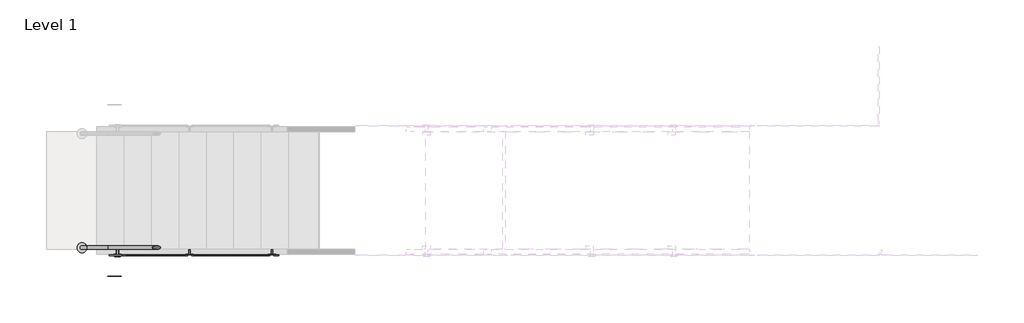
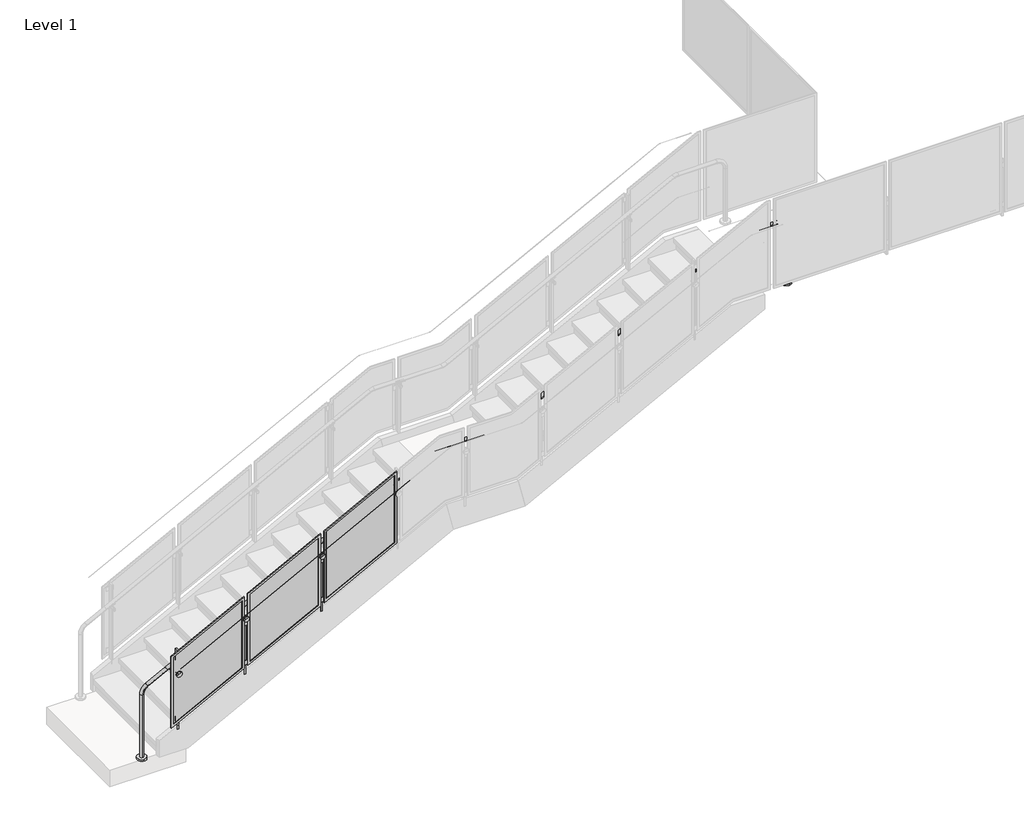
# One storey, part 4 of 28: 1 railing.
"""IFC4 building model written with IfcOpenShell, lengths in millimetres."""

from ifc_helpers import new_model, si_unit, point, frame, frame_2d, origin, place, context, project, spatial, polyline, circle_curve, ellipse_curve, trimmed, segment, composite_curve, outline, extrude, element, save
from ifc_brep_helpers import plane_surface, cylinder_surface, revolved_surface, advanced_brep

model = new_model("IFC4")

# Units and contexts
model_context = context("Model", 3, world=origin())
ifc_project = project(units=[si_unit("LENGTHUNIT", "METRE", prefix="MILLI")], contexts=[model_context])

# Site, building, storey
site = spatial("IfcSite", under=ifc_project)
building = spatial("IfcBuilding", under=site)
storey = spatial("IfcBuildingStorey", under=building, Name="Level 1", Elevation=0.0)

# Railing
placement = place(None, origin())
element("IfcRailing", 1, ObjectType="Metal-Panel-VIVA-STRUC-Slab-Top-Weld-Stairs-Lower", at=placement, inside=storey, context=model_context, shape_type="SolidModel", body=[
    extrude(outline(composite_curve([segment(trimmed(circle_curve(frame_2d((-12073.0515794, -31405.3881116)), 50.8), [point((-12073.0515794, -31456.1881116))], [point((-12073.0515794, -31354.5881116))], False, "CARTESIAN"), True, "CONTINUOUS"), segment(trimmed(circle_curve(frame_2d((-12073.0515794, -31405.3881116)), 50.8), [point((-12073.0515794, -31354.5881116))], [point((-12073.0515794, -31456.1881116))], False, "CARTESIAN"), True, "CONTINUOUS")], self_intersect=False)), frame((0.0, 0.0, 3047.9164465), z_axis=(0.0, 0.0, 1.0), x_axis=(1.0, 0.0, 0.0)), (0.0, 0.0, 1.0), 19.05),
    extrude(outline(composite_curve([segment(trimmed(circle_curve(frame_2d((-19157.6813244, -31405.3881116)), 50.8), [point((-19157.6813244, -31354.5881116))], [point((-19157.6813244, -31456.1881116))], False, "CARTESIAN"), True, "CONTINUOUS"), segment(trimmed(circle_curve(frame_2d((-19157.6813244, -31405.3881116)), 50.8), [point((-19157.6813244, -31456.1881116))], [point((-19157.6813244, -31354.5881116))], False, "CARTESIAN"), True, "CONTINUOUS")], self_intersect=False)), frame((0.0, 0.0, -0.1113211), z_axis=(0.0, 0.0, 1.0), x_axis=(1.0, 0.0, 0.0)), (0.0, 0.0, 1.0), 19.05),
    advanced_brep(
    [(-19157.6813244, -31424.4381116, 18.9386789), (-19157.6813244, -31386.3381116, 18.9386789), (-19157.6813244, -31424.4381116, 743.6520958), (-19157.6813244, -31386.3381116, 743.6520958), (-19102.917891, -31386.3381116, 833.8124864), (-19102.917891, -31424.4381116, 833.8124864), (-18888.5494682, -31424.4381116, 945.172706), (-18888.5494682, -31386.3381116, 945.172706), (-16373.9494682, -31424.4381116, 2251.4584203), (-16373.9494682, -31386.3381116, 2251.4584203), (-15937.6556338, -31386.3381116, 2465.2134935), (-15937.6556338, -31424.4381116, 2465.2134935), (-15199.5082651, -31424.4381116, 2465.2134935), (-15199.5082651, -31386.3381116, 2465.2134935), (-15135.1079861, -31386.3381116, 2480.9429564), (-15135.1079861, -31424.4381116, 2480.9429564), (-12645.7274553, -31424.4381116, 3774.1276477), (-12645.7274553, -31386.3381116, 3774.1276477), (-15984.4922003, -31424.4381116, 2453.7738841), (-15984.4922003, -31386.3381116, 2453.7738841), (-12598.8908888, -31386.3381116, 3785.5672571), (-12598.8908888, -31424.4381116, 3785.5672571), (-12174.6515794, -31424.4381116, 3785.5672571), (-12174.6515794, -31386.3381116, 3785.5672571), (-12073.0515794, -31386.3381116, 3683.9672571), (-12073.0515794, -31424.4381116, 3683.9672571), (-12073.0515794, -31424.4381116, 3066.9664465), (-12073.0515794, -31386.3381116, 3066.9664465)],
    [
        (0, 1, circle_curve(frame((-19157.6813244, -31405.3881116, 18.9386789), z_axis=(0.0, 0.0, -1.0), x_axis=(0.0, 1.0, 0.0)), 19.05)),
        (1, 0, circle_curve(frame((-19157.6813244, -31405.3881116, 18.9386789), z_axis=(0.0, 0.0, -1.0), x_axis=(0.0, 1.0, 0.0)), 19.05)),
        (0, 2),
        (2, 3, circle_curve(frame((-19157.6813244, -31405.3881116, 743.6520958), z_axis=(0.0, 0.0, -1.0), x_axis=(0.0, 1.0, 0.0)), 19.05)),
        (3, 1),
        (3, 2, circle_curve(frame((-19157.6813244, -31405.3881116, 743.6520958), z_axis=(0.0, 0.0, -1.0), x_axis=(0.0, 1.0, 0.0)), 19.05)),
        (4, 3, circle_curve(frame((-19056.0813244, -31386.3381116, 743.6520958), z_axis=(0.0, -1.0, 0.0), x_axis=(-0.9999999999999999, 0.0, 0.0)), 101.6)),
        (2, 5, circle_curve(frame((-19056.0813244, -31424.4381116, 743.6520958), z_axis=(0.0, 1.0, 0.0), x_axis=(-0.9999999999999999, 0.0, 0.0)), 101.6)),
        (5, 4, circle_curve(frame((-19102.917891, -31405.3881116, 833.8124864), z_axis=(-0.8874054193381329, 0.0, -0.46098982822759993), x_axis=(0.0, 0.9999999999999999, 0.0)), 19.05)),
        (4, 5, circle_curve(frame((-19102.917891, -31405.3881116, 833.8124864), z_axis=(-0.8874054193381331, 0.0, -0.46098982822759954), x_axis=(0.0, 0.9999999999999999, 0.0)), 19.05)),
        (5, 6),
        (6, 7, circle_curve(frame((-18888.5494682, -31405.3881116, 945.172706), z_axis=(-0.8874054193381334, 0.0, -0.46098982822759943), x_axis=(0.0, 1.0, 0.0)), 19.05)),
        (7, 4),
        (7, 6, circle_curve(frame((-18888.5494682, -31405.3881116, 945.172706), z_axis=(-0.8874054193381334, 0.0, -0.46098982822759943), x_axis=(0.0, 1.0, 0.0)), 19.05)),
        (6, 8),
        (8, 9, circle_curve(frame((-16373.9494682, -31405.3881116, 2251.4584203), z_axis=(-0.8874054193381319, 0.0, -0.4609898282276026), x_axis=(0.0, 1.0, 0.0)), 19.05)),
        (9, 7),
        (9, 8, circle_curve(frame((-16373.9494682, -31405.3881116, 2251.4584203), z_axis=(-0.8874054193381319, 0.0, -0.4609898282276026), x_axis=(0.0, 1.0, 0.0)), 19.05)),
        (10, 11, circle_curve(frame((-15937.6556338, -31405.3881116, 2465.2134935), z_axis=(1.0, 0.0, 0.0), x_axis=(0.0, 1.0, 0.0)), 19.05)),
        (11, 12),
        (12, 13, circle_curve(frame((-15199.5082651, -31405.3881116, 2465.2134935), z_axis=(-1.0, 0.0, 0.0), x_axis=(0.0, 1.0, 0.0)), 19.05)),
        (13, 10),
        (11, 10, circle_curve(frame((-15937.6556338, -31405.3881116, 2465.2134935), z_axis=(1.0, 0.0, 0.0), x_axis=(0.0, 1.0, 0.0)), 19.05)),
        (13, 12, circle_curve(frame((-15199.5082651, -31405.3881116, 2465.2134935), z_axis=(-1.0, 0.0, 0.0), x_axis=(0.0, 1.0, 0.0)), 19.05)),
        (14, 15, circle_curve(frame((-15135.1079861, -31405.3881116, 2480.9429564), z_axis=(0.8874054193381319, 0.0, 0.4609898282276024), x_axis=(0.0, 1.0, 0.0)), 19.05)),
        (15, 16),
        (16, 17, circle_curve(frame((-12645.7274553, -31405.3881116, 3774.1276477), z_axis=(-0.8874054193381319, 0.0, -0.4609898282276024), x_axis=(0.0, 1.0, 0.0)), 19.05)),
        (17, 14),
        (15, 14, circle_curve(frame((-15135.1079861, -31405.3881116, 2480.9429564), z_axis=(0.8874054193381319, 0.0, 0.4609898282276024), x_axis=(0.0, 1.0, 0.0)), 19.05)),
        (17, 16, circle_curve(frame((-12645.7274553, -31405.3881116, 3774.1276477), z_axis=(-0.8874054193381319, 0.0, -0.4609898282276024), x_axis=(0.0, 1.0, 0.0)), 19.05)),
        (14, 13, circle_curve(frame((-15199.5082651, -31386.3381116, 2604.9134935), z_axis=(0.0, 1.0, 0.0), x_axis=(0.0, 0.0, -1.0)), 139.7)),
        (12, 15, circle_curve(frame((-15199.5082651, -31424.4381116, 2604.9134935), z_axis=(0.0, -1.0, 0.0), x_axis=(0.0, 0.0, -1.0)), 139.7)),
        (8, 18),
        (18, 19, circle_curve(frame((-15984.4922003, -31405.3881116, 2453.7738841), z_axis=(-0.8874054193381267, 0.0, -0.4609898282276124), x_axis=(0.0, 1.0, 0.0)), 19.05)),
        (19, 9),
        (19, 18, circle_curve(frame((-15984.4922003, -31405.3881116, 2453.7738841), z_axis=(-0.8874054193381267, 0.0, -0.4609898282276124), x_axis=(0.0, 1.0, 0.0)), 19.05)),
        (10, 19, circle_curve(frame((-15937.6556338, -31386.3381116, 2363.6134935), z_axis=(0.0, -1.0, 0.0), x_axis=(-0.4609898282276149, 0.0, 0.8874054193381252)), 101.6)),
        (18, 11, circle_curve(frame((-15937.6556338, -31424.4381116, 2363.6134935), z_axis=(0.0, 1.0, 0.0), x_axis=(-0.4609898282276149, 0.0, 0.8874054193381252)), 101.6)),
        (20, 17, circle_curve(frame((-12598.8908888, -31386.3381116, 3683.9672571), z_axis=(0.0, -1.0, 0.0), x_axis=(-0.46098982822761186, 0.0, 0.8874054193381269)), 101.6)),
        (16, 21, circle_curve(frame((-12598.8908888, -31424.4381116, 3683.9672571), z_axis=(0.0, 1.0, 0.0), x_axis=(-0.46098982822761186, 0.0, 0.8874054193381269)), 101.6)),
        (21, 20, circle_curve(frame((-12598.8908888, -31405.3881116, 3785.5672571), z_axis=(-1.0, 0.0, 0.0), x_axis=(0.0, 1.0, 0.0)), 19.05)),
        (20, 21, circle_curve(frame((-12598.8908888, -31405.3881116, 3785.5672571), z_axis=(-1.0, 0.0, 0.0), x_axis=(0.0, 1.0, 0.0)), 19.05)),
        (21, 22),
        (22, 23, circle_curve(frame((-12174.6515794, -31405.3881116, 3785.5672571), z_axis=(-1.0, 0.0, 0.0), x_axis=(0.0, 1.0, 0.0)), 19.05)),
        (23, 20),
        (23, 22, circle_curve(frame((-12174.6515794, -31405.3881116, 3785.5672571), z_axis=(-1.0, 0.0, 0.0), x_axis=(0.0, 1.0, 0.0)), 19.05)),
        (24, 23, circle_curve(frame((-12174.6515794, -31386.3381116, 3683.9672571), z_axis=(0.0, -1.0, 0.0), x_axis=(0.0, 0.0, 1.0)), 101.6)),
        (22, 25, circle_curve(frame((-12174.6515794, -31424.4381116, 3683.9672571), z_axis=(0.0, 1.0, 0.0), x_axis=(0.0, 0.0, 1.0)), 101.6)),
        (25, 24, circle_curve(frame((-12073.0515794, -31405.3881116, 3683.9672571), z_axis=(0.0, 0.0, 1.0), x_axis=(0.0, 1.0, 0.0)), 19.05)),
        (24, 25, circle_curve(frame((-12073.0515794, -31405.3881116, 3683.9672571), z_axis=(0.0, 0.0, 1.0), x_axis=(0.0, 1.0, 0.0)), 19.05)),
        (26, 27, circle_curve(frame((-12073.0515794, -31405.3881116, 3066.9664465), z_axis=(0.0, 0.0, -1.0), x_axis=(0.0, 1.0, 0.0)), 19.05)),
        (27, 26, circle_curve(frame((-12073.0515794, -31405.3881116, 3066.9664465), z_axis=(0.0, 0.0, -1.0), x_axis=(0.0, 1.0, 0.0)), 19.05)),
        (25, 26),
        (27, 24),
    ],
    [
        plane_surface(frame((-19176.7313244, -31443.4881116, 18.9386789), z_axis=(0.0, 0.0, -1.0), x_axis=(1.0, 0.0, 0.0))),
        cylinder_surface(frame((-19157.6813244, -31405.3881116, 18.9386789), z_axis=(0.0, 0.0, -1.0), x_axis=(0.0, 1.0, 0.0)), 19.05),
        revolved_surface(trimmed(ellipse_curve(frame((-19157.6813244, -31405.3881116, 743.6520958), z_axis=(0.0, 0.0, -0.9999999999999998), x_axis=(0.0, 0.9999999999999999, 0.0)), 19.05, 19.05), [point((-19157.6813244, -31424.4381116, 743.6520958))], [point((-19157.6813244, -31386.3381116, 743.6520958))], True, "CARTESIAN"), (-19056.0813244, -31405.3881116, 743.6520958), (0.0, 0.9999999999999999, 0.0)),
        revolved_surface(trimmed(ellipse_curve(frame((-19157.6813244, -31405.3881116, 743.6520958), z_axis=(0.0, 0.0, -0.9999999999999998), x_axis=(0.0, 0.9999999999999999, 0.0)), 19.05, 19.05), [point((-19157.6813244, -31386.3381116, 743.6520958))], [point((-19157.6813244, -31424.4381116, 743.6520958))], True, "CARTESIAN"), (-19056.0813244, -31405.3881116, 743.6520958), (0.0, 0.9999999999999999, 0.0)),
        cylinder_surface(frame((-19102.917891, -31405.3881116, 833.8124864), z_axis=(-0.8874054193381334, 0.0, -0.46098982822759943), x_axis=(0.0, 1.0, 0.0)), 19.05),
        cylinder_surface(frame((-18888.5494682, -31405.3881116, 945.172706), z_axis=(-0.8874054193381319, 0.0, -0.4609898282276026), x_axis=(0.0, 1.0, 0.0)), 19.05),
        cylinder_surface(frame((-15937.6556338, -31405.3881116, 2465.2134935), z_axis=(-1.0, 0.0, 0.0), x_axis=(0.0, 1.0, 0.0)), 19.05),
        cylinder_surface(frame((-15135.1079861, -31405.3881116, 2480.9429564), z_axis=(-0.8874054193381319, 0.0, -0.4609898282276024), x_axis=(0.0, 1.0, 0.0)), 19.05),
        revolved_surface(trimmed(ellipse_curve(frame((-15199.5082651, -31405.3881116, 2465.2134935), z_axis=(-1.0, 0.0, 0.0), x_axis=(0.0, 1.0, 0.0)), 19.05, 19.05), [point((-15199.5082651, -31424.4381116, 2465.2134935))], [point((-15199.5082651, -31386.3381116, 2465.2134935))], True, "CARTESIAN"), (-15199.5082651, -31405.3881116, 2604.9134935), (0.0, -1.0, 0.0)),
        revolved_surface(trimmed(ellipse_curve(frame((-15199.5082651, -31405.3881116, 2465.2134935), z_axis=(-1.0, 0.0, 0.0), x_axis=(0.0, 1.0, 0.0)), 19.05, 19.05), [point((-15199.5082651, -31386.3381116, 2465.2134935))], [point((-15199.5082651, -31424.4381116, 2465.2134935))], True, "CARTESIAN"), (-15199.5082651, -31405.3881116, 2604.9134935), (0.0, -1.0, 0.0)),
        cylinder_surface(frame((-16373.9494682, -31405.3881116, 2251.4584203), z_axis=(-0.8874054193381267, 0.0, -0.4609898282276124), x_axis=(0.0, 1.0, 0.0)), 19.05),
        revolved_surface(trimmed(ellipse_curve(frame((-15984.4922003, -31405.3881116, 2453.7738841), z_axis=(-0.887405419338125, 0.0, -0.46098982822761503), x_axis=(0.0, 0.9999999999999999, 0.0)), 19.05, 19.05), [point((-15984.4922003, -31424.4381116, 2453.7738841))], [point((-15984.4922003, -31386.3381116, 2453.7738841))], True, "CARTESIAN"), (-15937.6556338, -31405.3881116, 2363.6134935), (0.0, 0.9999999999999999, 0.0)),
        revolved_surface(trimmed(ellipse_curve(frame((-15984.4922003, -31405.3881116, 2453.7738841), z_axis=(-0.887405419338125, 0.0, -0.46098982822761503), x_axis=(0.0, 0.9999999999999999, 0.0)), 19.05, 19.05), [point((-15984.4922003, -31386.3381116, 2453.7738841))], [point((-15984.4922003, -31424.4381116, 2453.7738841))], True, "CARTESIAN"), (-15937.6556338, -31405.3881116, 2363.6134935), (0.0, 0.9999999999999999, 0.0)),
        revolved_surface(trimmed(ellipse_curve(frame((-12645.7274553, -31405.3881116, 3774.1276477), z_axis=(-0.8874054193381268, 0.0, -0.46098982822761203), x_axis=(0.0, 1.0, 0.0)), 19.05, 19.05), [point((-12645.7274553, -31424.4381116, 3774.1276477))], [point((-12645.7274553, -31386.3381116, 3774.1276477))], True, "CARTESIAN"), (-12598.8908888, -31405.3881116, 3683.9672571), (0.0, 1.0, 0.0)),
        revolved_surface(trimmed(ellipse_curve(frame((-12645.7274553, -31405.3881116, 3774.1276477), z_axis=(-0.8874054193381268, 0.0, -0.46098982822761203), x_axis=(0.0, 1.0, 0.0)), 19.05, 19.05), [point((-12645.7274553, -31386.3381116, 3774.1276477))], [point((-12645.7274553, -31424.4381116, 3774.1276477))], True, "CARTESIAN"), (-12598.8908888, -31405.3881116, 3683.9672571), (0.0, 1.0, 0.0)),
        cylinder_surface(frame((-12598.8908888, -31405.3881116, 3785.5672571), z_axis=(-1.0, 0.0, 0.0), x_axis=(0.0, 1.0, 0.0)), 19.05),
        revolved_surface(trimmed(ellipse_curve(frame((-12174.6515794, -31405.3881116, 3785.5672571), z_axis=(-1.0, 0.0, 0.0), x_axis=(0.0, 1.0, 0.0)), 19.05, 19.05), [point((-12174.6515794, -31424.4381116, 3785.5672571))], [point((-12174.6515794, -31386.3381116, 3785.5672571))], True, "CARTESIAN"), (-12174.6515794, -31405.3881116, 3683.9672571), (0.0, 1.0, 0.0)),
        revolved_surface(trimmed(ellipse_curve(frame((-12174.6515794, -31405.3881116, 3785.5672571), z_axis=(-1.0, 0.0, 0.0), x_axis=(0.0, 1.0, 0.0)), 19.05, 19.05), [point((-12174.6515794, -31386.3381116, 3785.5672571))], [point((-12174.6515794, -31424.4381116, 3785.5672571))], True, "CARTESIAN"), (-12174.6515794, -31405.3881116, 3683.9672571), (0.0, 1.0, 0.0)),
        plane_surface(frame((-12054.0015794, -31443.4881116, 3066.9664465), z_axis=(0.0, 0.0, -1.0), x_axis=(-1.0, 0.0, 0.0))),
        cylinder_surface(frame((-12073.0515794, -31405.3881116, 3683.9672571), z_axis=(0.0, 0.0, 1.0), x_axis=(0.0, 1.0, 0.0)), 19.05),
    ],
    [
        (0, [[1, 2]]),
        (1, [[-1, 3, 4, 5]]),
        (1, [[-2, -5, 6, -3]]),
        (2, [[7, -4, 8, 9]]),
        (3, [[-8, -6, -7, 10]]),
        (4, [[-9, 11, 12, 13]]),
        (4, [[-10, -13, 14, -11]]),
        (5, [[-12, 15, 16, 17]]),
        (5, [[-14, -17, 18, -15]]),
        (6, [[19, 20, 21, 22]]),
        (6, [[23, -22, 24, -20]]),
        (7, [[25, 26, 27, 28]]),
        (7, [[29, -28, 30, -26]]),
        (8, [[31, -21, 32, -25]]),
        (9, [[-32, -24, -31, -29]]),
        (10, [[-16, 33, 34, 35]]),
        (10, [[-18, -35, 36, -33]]),
        (11, [[37, -34, 38, -19]]),
        (12, [[-38, -36, -37, -23]]),
        (13, [[39, -27, 40, 41]]),
        (14, [[-40, -30, -39, 42]]),
        (15, [[-41, 43, 44, 45]]),
        (15, [[-42, -45, 46, -43]]),
        (16, [[47, -44, 48, 49]]),
        (17, [[-48, -46, -47, 50]]),
        (18, [[51, 52]]),
        (19, [[-49, 53, -52, 54]]),
        (19, [[-50, -54, -51, -53]]),
    ],
),
    advanced_brep(
    [(-18897.3313244, -31698.1375116, 1127.7573389), (-18897.3313244, -31697.1375116, 1127.7573389), (-16382.7313244, -31698.1375116, 2434.0430532), (-16382.7313244, -31697.1375116, 2434.0430532)],
    [
        (0, 1, ellipse_curve(frame((-18897.3313244, -31697.6375116, 1127.7573389), z_axis=(-1.0, 0.0, 0.0), x_axis=(0.0, 0.0, -1.0)), 0.5634403, 0.5)),
        (1, 0, ellipse_curve(frame((-18897.3313244, -31697.6375116, 1127.7573389), z_axis=(-1.0, 0.0, 0.0), x_axis=(0.0, 0.0, -1.0)), 0.5634403, 0.5)),
        (2, 3, ellipse_curve(frame((-16382.7313244, -31697.6375116, 2434.0430532), z_axis=(1.0, 0.0, 0.0), x_axis=(0.0, 0.0, -1.0)), 0.5634403, 0.5)),
        (3, 2, ellipse_curve(frame((-16382.7313244, -31697.6375116, 2434.0430532), z_axis=(1.0, 0.0, 0.0), x_axis=(0.0, 0.0, -1.0)), 0.5634403, 0.5)),
        (0, 2),
        (3, 1),
    ],
    [
        plane_surface(frame((-18897.3313244, -31697.6375116, 1128.3207792), z_axis=(-1.0, 0.0, 0.0), x_axis=(0.0, 1.0, 0.0))),
        plane_surface(frame((-16382.7313244, -31697.6375116, 2434.6064935), z_axis=(1.0, 0.0, 0.0), x_axis=(0.0, 1.0, 0.0))),
        cylinder_surface(frame((-18897.1008295, -31697.6375116, 1127.8770765), z_axis=(-0.8874054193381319, 0.0, -0.46098982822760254), x_axis=(0.0, 1.0, 0.0)), 0.5),
    ],
    [
        (0, [[1, 2]]),
        (1, [[3, 4]]),
        (2, [[-1, 5, -4, 6]]),
        (2, [[-2, -6, -3, -5]]),
    ],
),
    extrude(outline(polyline([(1991.249734, -17176.4853675), (1215.2615278, -17176.4853675), (1604.5124816, -16427.1772814), (2380.5006878, -16427.1772814), (1991.249734, -17176.4853675)])), frame((0.0, -31482.9865116, 0.0), z_axis=(0.0, 1.0, 0.0), x_axis=(0.0, 0.0, 1.0)), (0.0, 0.0, 1.0), 3.0),
    extrude(outline(polyline([(1173.4439539, -17201.8853675), (1589.0845182, -16401.7772814), (2422.3182616, -16401.7772814), (2006.6776974, -17201.8853675), (1173.4439539, -17201.8853675)]), holes=[polyline([(1991.249734, -17176.4853675), (2380.5006878, -16427.1772814), (1604.5124816, -16427.1772814), (1215.2615278, -17176.4853675), (1991.249734, -17176.4853675)])]), frame((0.0, -31489.5115116, 0.0), z_axis=(0.0, 1.0, 0.0), x_axis=(0.0, 0.0, 1.0)), (0.0, 0.0, 1.0), 9.525),
    extrude(outline(polyline([(-17259.0320437, -31472.8759116), (-17182.8306052, -31472.8759116), (-17182.8306052, -31479.9879116), (-17259.0320437, -31479.9879116), (-17259.0320437, -31472.8759116)])), frame((0.0, 0.0, 1642.0539221), z_axis=(0.0, 0.0, 1.0), x_axis=(1.0, 0.0, 0.0)), (0.0, 0.0, 1.0), 50.8),
    extrude(outline(polyline([(-17259.0320437, -31472.8759116), (-17182.8306052, -31472.8759116), (-17182.8306052, -31479.9879116), (-17259.0320437, -31479.9879116), (-17259.0320437, -31472.8759116)])), frame((0.0, 0.0, 1184.8539221), z_axis=(0.0, 0.0, 1.0), x_axis=(1.0, 0.0, 0.0)), (0.0, 0.0, 1.0), 50.8),
    extrude(outline(composite_curve([segment(polyline([(2.99974, 1e-07), (0.0, 0.0)]), True, "CONTINUOUS"), segment(trimmed(circle_curve(frame_2d((-19.0451471, 0.0)), 19.0451471), [point((0.0, 0.0))], [point((-23.6280664, 18.4855208))], True, "CARTESIAN"), True, "CONTINUOUS"), segment(polyline([(-23.6280664, 18.4855208), (-24.3499073, 21.397116)]), True, "CONTINUOUS"), segment(trimmed(circle_curve(frame_2d((-19.0451471, 0.0)), 22.0448871), [point((-24.3499073, 21.397116))], [point((2.99974, 1e-07))], False, "CARTESIAN"), True, "CONTINUOUS")], self_intersect=False)), frame((-17283.4190349, -31418.7879116, 1757.5297189), z_axis=(0.8874054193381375, 0.0, 0.4609898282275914), x_axis=(0.2840545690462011, -0.7876022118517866, -0.5468050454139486)), (0.0, 0.0, 1.0), 79.1184357),
    advanced_brep(
    [(-17208.5341468, -31403.7879116, 1699.1899551), (-17208.5341468, -31410.9316616, 1699.1899551), (-17208.5341468, -31396.6441616, 1699.1899551), (-17244.3933931, -31410.9316616, 1768.2190042), (-17244.3933931, -31403.7879116, 1768.2190042), (-17244.3933931, -31396.6441616, 1768.2190042)],
    [
        (0, 1),
        (1, 2, circle_curve(frame((-17208.5341468, -31403.7879116, 1699.1899551), z_axis=(0.46098982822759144, 0.0, -0.8874054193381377), x_axis=(0.0, 1.0000000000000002, 0.0)), 7.14375)),
        (2, 0),
        (3, 4),
        (4, 5),
        (5, 3, circle_curve(frame((-17244.3933931, -31403.7879116, 1768.2190042), z_axis=(-0.46098982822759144, 0.0, 0.8874054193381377), x_axis=(0.0, 1.0000000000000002, 0.0)), 7.14375)),
        (2, 1, circle_curve(frame((-17208.5341468, -31403.7879116, 1699.1899551), z_axis=(0.46098982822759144, 0.0, -0.8874054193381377), x_axis=(0.0, 1.0000000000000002, 0.0)), 7.14375)),
        (3, 5, circle_curve(frame((-17244.3933931, -31403.7879116, 1768.2190042), z_axis=(-0.46098982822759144, 0.0, 0.8874054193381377), x_axis=(0.0, 1.0000000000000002, 0.0)), 7.14375)),
        (1, 3),
        (5, 2),
    ],
    [
        plane_surface(frame((-17208.5341468, -31403.7879116, 1699.1899551), z_axis=(0.46098982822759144, 0.0, -0.8874054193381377), x_axis=(0.0, 1.0, 0.0))),
        plane_surface(frame((-17244.3933931, -31403.7879116, 1768.2190042), z_axis=(-0.46098982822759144, 0.0, 0.8874054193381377), x_axis=(0.0, 1.0, 0.0))),
        cylinder_surface(frame((-17091.5799469, -31403.7879116, 1474.0531204), z_axis=(0.46098982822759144, 0.0, -0.8874054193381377), x_axis=(0.0, 1.0000000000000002, 0.0)), 7.14375),
    ],
    [
        (0, [[1, 2, 3]]),
        (1, [[4, 5, 6]]),
        (0, [[-3, 7, -1]]),
        (1, [[-5, -4, 8]]),
        (2, [[9, -6, 10, -2]]),
        (2, [[-10, -8, -9, -7]]),
    ],
),
    advanced_brep(
    [(-17247.6976904, -31489.5129116, 1709.1499164), (-17226.5663488, -31489.5129116, 1720.1272367), (-17215.2963, -31489.5129116, 1725.9818075), (-17194.1649585, -31489.5129116, 1736.9591278), (-17247.6976904, -31497.4504116, 1709.1499164), (-17194.1649585, -31497.4504116, 1736.9591278), (-17247.6976904, -31472.0504116, 1709.1499164), (-17232.2013733, -31472.0504116, 1717.1999513), (-17209.6612756, -31472.0504116, 1728.9090929), (-17194.1649585, -31472.0504116, 1736.9591278), (-17247.6976904, -31479.9879116, 1709.1499164), (-17194.1649585, -31479.9879116, 1736.9591278), (-17220.9313244, -31497.4504116, 1723.0545221), (-17232.2013733, -31392.6754116, 1717.1999513), (-17220.9313244, -31392.6754116, 1723.0545221), (-17209.6612756, -31392.6754116, 1728.9090929), (-17226.5663488, -31479.9879116, 1720.1272367), (-17215.2963, -31479.9879116, 1725.9818075)],
    [
        (0, 1),
        (1, 2, circle_curve(frame((-17220.9313244, -31489.5129116, 1723.0545221), z_axis=(0.0, -1.0, 0.0), x_axis=(0.8874054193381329, 0.0, 0.46098982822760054)), 6.35)),
        (2, 3),
        (3, 0, circle_curve(frame((-17220.9313244, -31489.5129116, 1723.0545221), z_axis=(0.0, 1.0, 0.0), x_axis=(0.8874054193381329, 0.0, 0.46098982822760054)), 30.1625)),
        (4, 0),
        (3, 5),
        (5, 4, circle_curve(frame((-17220.9313244, -31497.4504116, 1723.0545221), z_axis=(0.0, 1.0, 0.0), x_axis=(0.8874054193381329, 0.0, 0.46098982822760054)), 30.1625)),
        (6, 7),
        (7, 8, circle_curve(frame((-17220.9313244, -31472.0504116, 1723.0545221), z_axis=(0.0, -1.0, 0.0), x_axis=(0.8874054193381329, 0.0, 0.46098982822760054)), 12.7)),
        (8, 9),
        (9, 6, circle_curve(frame((-17220.9313244, -31472.0504116, 1723.0545221), z_axis=(0.0, 1.0, 0.0), x_axis=(0.8874054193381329, 0.0, 0.46098982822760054)), 30.1625)),
        (10, 6),
        (9, 11),
        (11, 10, circle_curve(frame((-17220.9313244, -31479.9879116, 1723.0545221), z_axis=(0.0, 1.0, 0.0), x_axis=(0.8874054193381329, 0.0, 0.46098982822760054)), 30.1625)),
        (3, 0, circle_curve(frame((-17220.9313244, -31489.5129116, 1723.0545221), z_axis=(0.0, -1.0, 0.0), x_axis=(0.8874054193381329, 0.0, 0.46098982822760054)), 30.1625)),
        (4, 5, circle_curve(frame((-17220.9313244, -31497.4504116, 1723.0545221), z_axis=(0.0, 1.0, 0.0), x_axis=(0.8874054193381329, 0.0, 0.46098982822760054)), 30.1625)),
        (12, 4),
        (5, 12),
        (13, 14),
        (14, 15),
        (15, 13, circle_curve(frame((-17220.9313244, -31392.6754116, 1723.0545221), z_axis=(0.0, 1.0, 0.0), x_axis=(0.8874054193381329, 0.0, 0.46098982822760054)), 12.7)),
        (13, 15, circle_curve(frame((-17220.9313244, -31392.6754116, 1723.0545221), z_axis=(0.0, 1.0, 0.0), x_axis=(0.8874054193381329, 0.0, 0.46098982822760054)), 12.7)),
        (7, 13),
        (15, 8),
        (7, 8, circle_curve(frame((-17220.9313244, -31472.0504116, 1723.0545221), z_axis=(0.0, 1.0, 0.0), x_axis=(0.8874054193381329, 0.0, 0.46098982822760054)), 12.7)),
        (6, 9, circle_curve(frame((-17220.9313244, -31472.0504116, 1723.0545221), z_axis=(0.0, 1.0, 0.0), x_axis=(0.8874054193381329, 0.0, 0.46098982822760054)), 30.1625)),
        (10, 11, circle_curve(frame((-17220.9313244, -31479.9879116, 1723.0545221), z_axis=(0.0, 1.0, 0.0), x_axis=(0.8874054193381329, 0.0, 0.46098982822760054)), 30.1625)),
        (16, 10),
        (11, 17),
        (17, 16, circle_curve(frame((-17220.9313244, -31479.9879116, 1723.0545221), z_axis=(0.0, 1.0, 0.0), x_axis=(0.8874054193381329, 0.0, 0.46098982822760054)), 6.35)),
        (16, 17, circle_curve(frame((-17220.9313244, -31479.9879116, 1723.0545221), z_axis=(0.0, 1.0, 0.0), x_axis=(0.8874054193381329, 0.0, 0.46098982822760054)), 6.35)),
        (1, 16),
        (17, 2),
        (1, 2, circle_curve(frame((-17220.9313244, -31489.5129116, 1723.0545221), z_axis=(0.0, 1.0, 0.0), x_axis=(0.8874054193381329, 0.0, 0.46098982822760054)), 6.35)),
    ],
    [
        plane_surface(frame((-17220.9313244, -31489.5129116, 1723.0545221), z_axis=(0.0, 1.0000000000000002, 0.0), x_axis=(0.8874054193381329, 0.0, 0.46098982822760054))),
        cylinder_surface(frame((-17220.9313244, -33003.9879116, 1723.0545221), z_axis=(0.0, -1.0000000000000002, 0.0), x_axis=(0.8874054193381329, 0.0, 0.46098982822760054)), 30.1625),
        plane_surface(frame((-17220.9313244, -31472.0504116, 1723.0545221), z_axis=(0.0, 1.0000000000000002, 0.0), x_axis=(0.8874054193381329, 0.0, 0.46098982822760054))),
        plane_surface(frame((-17220.9313244, -31497.4504116, 1723.0545221), z_axis=(0.0, -1.0000000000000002, 0.0), x_axis=(0.8874054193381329, 0.0, 0.46098982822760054))),
        plane_surface(frame((-17220.9313244, -31392.6754116, 1723.0545221), z_axis=(0.0, 1.0000000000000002, 0.0), x_axis=(0.8874054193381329, 0.0, 0.46098982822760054))),
        cylinder_surface(frame((-17220.9313244, -33003.9879116, 1723.0545221), z_axis=(0.0, -1.0000000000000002, 0.0), x_axis=(0.8874054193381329, 0.0, 0.46098982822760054)), 12.7),
        plane_surface(frame((-17220.9313244, -31479.9879116, 1723.0545221), z_axis=(0.0, -1.0000000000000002, 0.0), x_axis=(0.8874054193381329, 0.0, 0.46098982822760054))),
        cylinder_surface(frame((-17220.9313244, -33003.9879116, 1723.0545221), z_axis=(0.0, -1.0000000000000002, 0.0), x_axis=(0.8874054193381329, 0.0, 0.46098982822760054)), 6.35),
    ],
    [
        (0, [[1, 2, 3, 4]]),
        (1, [[5, -4, 6, 7]]),
        (2, [[8, 9, 10, 11]]),
        (1, [[12, -11, 13, 14]]),
        (1, [[-6, 15, -5, 16]]),
        (3, [[17, -7, 18]]),
        (3, [[-18, -16, -17]]),
        (4, [[19, 20, 21]]),
        (4, [[-20, -19, 22]]),
        (5, [[23, -21, 24, -9]]),
        (5, [[-24, -22, -23, 25]]),
        (2, [[-10, -25, -8, 26]]),
        (1, [[-13, -26, -12, 27]]),
        (6, [[28, -14, 29, 30]]),
        (6, [[-29, -27, -28, 31]]),
        (7, [[32, -30, 33, -2]]),
        (7, [[-33, -31, -32, 34]]),
        (0, [[-3, -34, -1, -15]]),
    ],
),
    extrude(outline(polyline([(-17228.8709161, -31428.4259116), (-17212.9917328, -31428.4259116), (-17212.9917328, -31472.8759116), (-17228.8709161, -31472.8759116), (-17228.8709161, -31428.4259116)])), frame((0.0, 0.0, 1072.0779221), z_axis=(0.0, 0.0, 1.0), x_axis=(1.0, 0.0, 0.0)), (0.0, 0.0, 1.0), 660.4),
    extrude(outline(polyline([(1555.8211626, -18014.6853675), (779.8329563, -18014.6853675), (1169.0839102, -17265.3772814), (1945.0721164, -17265.3772814), (1555.8211626, -18014.6853675)])), frame((0.0, -31482.9865116, 0.0), z_axis=(0.0, 1.0, 0.0), x_axis=(0.0, 0.0, 1.0)), (0.0, 0.0, 1.0), 3.0),
    extrude(outline(polyline([(738.0153825, -18040.0853675), (1153.6559467, -17239.9772814), (1986.8896902, -17239.9772814), (1571.249126, -18040.0853675), (738.0153825, -18040.0853675)]), holes=[polyline([(1555.8211626, -18014.6853675), (1945.0721164, -17265.3772814), (1169.0839102, -17265.3772814), (779.8329563, -18014.6853675), (1555.8211626, -18014.6853675)])]), frame((0.0, -31489.5115116, 0.0), z_axis=(0.0, 1.0, 0.0), x_axis=(0.0, 0.0, 1.0)), (0.0, 0.0, 1.0), 9.525),
    extrude(outline(polyline([(-18097.2320437, -31472.8759116), (-18021.0306052, -31472.8759116), (-18021.0306052, -31479.9879116), (-18097.2320437, -31479.9879116), (-18097.2320437, -31472.8759116)])), frame((0.0, 0.0, 1206.6253506), z_axis=(0.0, 0.0, 1.0), x_axis=(1.0, 0.0, 0.0)), (0.0, 0.0, 1.0), 50.8),
    extrude(outline(polyline([(-18097.2320437, -31472.8759116), (-18021.0306052, -31472.8759116), (-18021.0306052, -31479.9879116), (-18097.2320437, -31479.9879116), (-18097.2320437, -31472.8759116)])), frame((0.0, 0.0, 749.4253506), z_axis=(0.0, 0.0, 1.0), x_axis=(1.0, 0.0, 0.0)), (0.0, 0.0, 1.0), 50.8),
    extrude(outline(composite_curve([segment(polyline([(2.99974, 1e-07), (0.0, 0.0)]), True, "CONTINUOUS"), segment(trimmed(circle_curve(frame_2d((-19.0451471, 0.0)), 19.0451471), [point((0.0, 0.0))], [point((-23.6280664, 18.4855208))], True, "CARTESIAN"), True, "CONTINUOUS"), segment(polyline([(-23.6280664, 18.4855208), (-24.3499073, 21.397116)]), True, "CONTINUOUS"), segment(trimmed(circle_curve(frame_2d((-19.0451471, 0.0)), 22.0448871), [point((-24.3499073, 21.397116))], [point((2.99974, 1e-07))], False, "CARTESIAN"), True, "CONTINUOUS")], self_intersect=False)), frame((-18121.6190349, -31418.7879116, 1322.1011475), z_axis=(0.8874054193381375, 0.0, 0.4609898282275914), x_axis=(0.2840545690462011, -0.7876022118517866, -0.5468050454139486)), (0.0, 0.0, 1.0), 79.1184357),
    advanced_brep(
    [(-18046.7341468, -31403.7879116, 1263.7613837), (-18046.7341468, -31410.9316616, 1263.7613837), (-18046.7341468, -31396.6441616, 1263.7613837), (-18082.5933931, -31410.9316616, 1332.7904328), (-18082.5933931, -31403.7879116, 1332.7904328), (-18082.5933931, -31396.6441616, 1332.7904328)],
    [
        (0, 1),
        (1, 2, circle_curve(frame((-18046.7341468, -31403.7879116, 1263.7613837), z_axis=(0.46098982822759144, 0.0, -0.8874054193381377), x_axis=(0.0, 1.0000000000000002, 0.0)), 7.14375)),
        (2, 0),
        (3, 4),
        (4, 5),
        (5, 3, circle_curve(frame((-18082.5933931, -31403.7879116, 1332.7904328), z_axis=(-0.46098982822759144, 0.0, 0.8874054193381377), x_axis=(0.0, 1.0000000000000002, 0.0)), 7.14375)),
        (2, 1, circle_curve(frame((-18046.7341468, -31403.7879116, 1263.7613837), z_axis=(0.46098982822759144, 0.0, -0.8874054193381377), x_axis=(0.0, 1.0000000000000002, 0.0)), 7.14375)),
        (3, 5, circle_curve(frame((-18082.5933931, -31403.7879116, 1332.7904328), z_axis=(-0.46098982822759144, 0.0, 0.8874054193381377), x_axis=(0.0, 1.0000000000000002, 0.0)), 7.14375)),
        (1, 3),
        (5, 2),
    ],
    [
        plane_surface(frame((-18046.7341468, -31403.7879116, 1263.7613837), z_axis=(0.46098982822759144, 0.0, -0.8874054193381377), x_axis=(0.0, 1.0, 0.0))),
        plane_surface(frame((-18082.5933931, -31403.7879116, 1332.7904328), z_axis=(-0.46098982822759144, 0.0, 0.8874054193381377), x_axis=(0.0, 1.0, 0.0))),
        cylinder_surface(frame((-17929.7799469, -31403.7879116, 1038.624549), z_axis=(0.46098982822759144, 0.0, -0.8874054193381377), x_axis=(0.0, 1.0000000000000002, 0.0)), 7.14375),
    ],
    [
        (0, [[1, 2, 3]]),
        (1, [[4, 5, 6]]),
        (0, [[-3, 7, -1]]),
        (1, [[-5, -4, 8]]),
        (2, [[9, -6, 10, -2]]),
        (2, [[-10, -8, -9, -7]]),
    ],
),
    advanced_brep(
    [(-18085.8976904, -31489.5129116, 1273.721345), (-18064.7663488, -31489.5129116, 1284.6986652), (-18053.4963, -31489.5129116, 1290.5532361), (-18032.3649585, -31489.5129116, 1301.5305563), (-18085.8976904, -31497.4504116, 1273.721345), (-18032.3649585, -31497.4504116, 1301.5305563), (-18085.8976904, -31472.0504116, 1273.721345), (-18070.4013733, -31472.0504116, 1281.7713798), (-18047.8612756, -31472.0504116, 1293.4805215), (-18032.3649585, -31472.0504116, 1301.5305563), (-18085.8976904, -31479.9879116, 1273.721345), (-18032.3649585, -31479.9879116, 1301.5305563), (-18059.1313244, -31497.4504116, 1287.6259506), (-18070.4013733, -31392.6754116, 1281.7713798), (-18059.1313244, -31392.6754116, 1287.6259506), (-18047.8612756, -31392.6754116, 1293.4805215), (-18064.7663488, -31479.9879116, 1284.6986652), (-18053.4963, -31479.9879116, 1290.5532361)],
    [
        (0, 1),
        (1, 2, circle_curve(frame((-18059.1313244, -31489.5129116, 1287.6259506), z_axis=(0.0, -1.0, 0.0), x_axis=(0.8874054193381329, 0.0, 0.46098982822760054)), 6.35)),
        (2, 3),
        (3, 0, circle_curve(frame((-18059.1313244, -31489.5129116, 1287.6259506), z_axis=(0.0, 1.0, 0.0), x_axis=(0.8874054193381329, 0.0, 0.46098982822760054)), 30.1625)),
        (4, 0),
        (3, 5),
        (5, 4, circle_curve(frame((-18059.1313244, -31497.4504116, 1287.6259506), z_axis=(0.0, 1.0, 0.0), x_axis=(0.8874054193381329, 0.0, 0.46098982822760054)), 30.1625)),
        (6, 7),
        (7, 8, circle_curve(frame((-18059.1313244, -31472.0504116, 1287.6259506), z_axis=(0.0, -1.0, 0.0), x_axis=(0.8874054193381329, 0.0, 0.46098982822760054)), 12.7)),
        (8, 9),
        (9, 6, circle_curve(frame((-18059.1313244, -31472.0504116, 1287.6259506), z_axis=(0.0, 1.0, 0.0), x_axis=(0.8874054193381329, 0.0, 0.46098982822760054)), 30.1625)),
        (10, 6),
        (9, 11),
        (11, 10, circle_curve(frame((-18059.1313244, -31479.9879116, 1287.6259506), z_axis=(0.0, 1.0, 0.0), x_axis=(0.8874054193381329, 0.0, 0.46098982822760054)), 30.1625)),
        (3, 0, circle_curve(frame((-18059.1313244, -31489.5129116, 1287.6259506), z_axis=(0.0, -1.0, 0.0), x_axis=(0.8874054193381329, 0.0, 0.46098982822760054)), 30.1625)),
        (4, 5, circle_curve(frame((-18059.1313244, -31497.4504116, 1287.6259506), z_axis=(0.0, 1.0, 0.0), x_axis=(0.8874054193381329, 0.0, 0.46098982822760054)), 30.1625)),
        (12, 4),
        (5, 12),
        (13, 14),
        (14, 15),
        (15, 13, circle_curve(frame((-18059.1313244, -31392.6754116, 1287.6259506), z_axis=(0.0, 1.0, 0.0), x_axis=(0.8874054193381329, 0.0, 0.46098982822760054)), 12.7)),
        (13, 15, circle_curve(frame((-18059.1313244, -31392.6754116, 1287.6259506), z_axis=(0.0, 1.0, 0.0), x_axis=(0.8874054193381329, 0.0, 0.46098982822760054)), 12.7)),
        (7, 13),
        (15, 8),
        (7, 8, circle_curve(frame((-18059.1313244, -31472.0504116, 1287.6259506), z_axis=(0.0, 1.0, 0.0), x_axis=(0.8874054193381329, 0.0, 0.46098982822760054)), 12.7)),
        (6, 9, circle_curve(frame((-18059.1313244, -31472.0504116, 1287.6259506), z_axis=(0.0, 1.0, 0.0), x_axis=(0.8874054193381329, 0.0, 0.46098982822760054)), 30.1625)),
        (10, 11, circle_curve(frame((-18059.1313244, -31479.9879116, 1287.6259506), z_axis=(0.0, 1.0, 0.0), x_axis=(0.8874054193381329, 0.0, 0.46098982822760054)), 30.1625)),
        (16, 10),
        (11, 17),
        (17, 16, circle_curve(frame((-18059.1313244, -31479.9879116, 1287.6259506), z_axis=(0.0, 1.0, 0.0), x_axis=(0.8874054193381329, 0.0, 0.46098982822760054)), 6.35)),
        (16, 17, circle_curve(frame((-18059.1313244, -31479.9879116, 1287.6259506), z_axis=(0.0, 1.0, 0.0), x_axis=(0.8874054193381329, 0.0, 0.46098982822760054)), 6.35)),
        (1, 16),
        (17, 2),
        (1, 2, circle_curve(frame((-18059.1313244, -31489.5129116, 1287.6259506), z_axis=(0.0, 1.0, 0.0), x_axis=(0.8874054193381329, 0.0, 0.46098982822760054)), 6.35)),
    ],
    [
        plane_surface(frame((-18059.1313244, -31489.5129116, 1287.6259506), z_axis=(0.0, 1.0000000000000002, 0.0), x_axis=(0.8874054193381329, 0.0, 0.46098982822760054))),
        cylinder_surface(frame((-18059.1313244, -33003.9879116, 1287.6259506), z_axis=(0.0, -1.0000000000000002, 0.0), x_axis=(0.8874054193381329, 0.0, 0.46098982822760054)), 30.1625),
        plane_surface(frame((-18059.1313244, -31472.0504116, 1287.6259506), z_axis=(0.0, 1.0000000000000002, 0.0), x_axis=(0.8874054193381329, 0.0, 0.46098982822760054))),
        plane_surface(frame((-18059.1313244, -31497.4504116, 1287.6259506), z_axis=(0.0, -1.0000000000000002, 0.0), x_axis=(0.8874054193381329, 0.0, 0.46098982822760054))),
        plane_surface(frame((-18059.1313244, -31392.6754116, 1287.6259506), z_axis=(0.0, 1.0000000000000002, 0.0), x_axis=(0.8874054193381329, 0.0, 0.46098982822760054))),
        cylinder_surface(frame((-18059.1313244, -33003.9879116, 1287.6259506), z_axis=(0.0, -1.0000000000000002, 0.0), x_axis=(0.8874054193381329, 0.0, 0.46098982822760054)), 12.7),
        plane_surface(frame((-18059.1313244, -31479.9879116, 1287.6259506), z_axis=(0.0, -1.0000000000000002, 0.0), x_axis=(0.8874054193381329, 0.0, 0.46098982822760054))),
        cylinder_surface(frame((-18059.1313244, -33003.9879116, 1287.6259506), z_axis=(0.0, -1.0000000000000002, 0.0), x_axis=(0.8874054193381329, 0.0, 0.46098982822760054)), 6.35),
    ],
    [
        (0, [[1, 2, 3, 4]]),
        (1, [[5, -4, 6, 7]]),
        (2, [[8, 9, 10, 11]]),
        (1, [[12, -11, 13, 14]]),
        (1, [[-6, 15, -5, 16]]),
        (3, [[17, -7, 18]]),
        (3, [[-18, -16, -17]]),
        (4, [[19, 20, 21]]),
        (4, [[-20, -19, 22]]),
        (5, [[23, -21, 24, -9]]),
        (5, [[-24, -22, -23, 25]]),
        (2, [[-10, -25, -8, 26]]),
        (1, [[-13, -26, -12, 27]]),
        (6, [[28, -14, 29, 30]]),
        (6, [[-29, -27, -28, 31]]),
        (7, [[32, -30, 33, -2]]),
        (7, [[-33, -31, -32, 34]]),
        (0, [[-3, -34, -1, -15]]),
    ],
),
    extrude(outline(polyline([(-18067.0709161, -31428.4259116), (-18051.1917328, -31428.4259116), (-18051.1917328, -31472.8759116), (-18067.0709161, -31472.8759116), (-18067.0709161, -31428.4259116)])), frame((0.0, 0.0, 636.6493506), z_axis=(0.0, 0.0, 1.0), x_axis=(1.0, 0.0, 0.0)), (0.0, 0.0, 1.0), 660.4),
    extrude(outline(polyline([(1120.3925911, -18852.8853675), (344.4043849, -18852.8853675), (733.6553387, -18103.5772814), (1509.643545, -18103.5772814), (1120.3925911, -18852.8853675)])), frame((0.0, -31482.9865116, 0.0), z_axis=(0.0, 1.0, 0.0), x_axis=(0.0, 0.0, 1.0)), (0.0, 0.0, 1.0), 3.0),
    extrude(outline(polyline([(302.5868111, -18878.2853675), (718.2273753, -18078.1772814), (1551.4611188, -18078.1772814), (1135.8205546, -18878.2853675), (302.5868111, -18878.2853675)]), holes=[polyline([(1120.3925911, -18852.8853675), (1509.643545, -18103.5772814), (733.6553387, -18103.5772814), (344.4043849, -18852.8853675), (1120.3925911, -18852.8853675)])]), frame((0.0, -31489.5115116, 0.0), z_axis=(0.0, 1.0, 0.0), x_axis=(0.0, 0.0, 1.0)), (0.0, 0.0, 1.0), 9.525),
    extrude(outline(polyline([(-18833.8320437, -31472.8759116), (-18757.6306052, -31472.8759116), (-18757.6306052, -31479.9879116), (-18833.8320437, -31479.9879116), (-18833.8320437, -31472.8759116)])), frame((0.0, 0.0, 1077.976), z_axis=(0.0, 0.0, 1.0), x_axis=(1.0, 0.0, 0.0)), (0.0, 0.0, 1.0), 50.8),
    extrude(outline(polyline([(-18833.8320437, -31472.8759116), (-18757.6306052, -31472.8759116), (-18757.6306052, -31479.9879116), (-18833.8320437, -31479.9879116), (-18833.8320437, -31472.8759116)])), frame((0.0, 0.0, 366.776), z_axis=(0.0, 0.0, 1.0), x_axis=(1.0, 0.0, 0.0)), (0.0, 0.0, 1.0), 50.8),
    extrude(outline(composite_curve([segment(polyline([(2.9997399, 0.0), (0.0, 0.0)]), True, "CONTINUOUS"), segment(trimmed(circle_curve(frame_2d((-19.0451472, -1e-07)), 19.0451471), [point((0.0, 0.0))], [point((-23.6280664, 18.4855208))], True, "CARTESIAN"), True, "CONTINUOUS"), segment(polyline([(-23.6280664, 18.4855208), (-24.3499073, 21.3971159)]), True, "CONTINUOUS"), segment(trimmed(circle_curve(frame_2d((-19.0451472, -1e-07)), 22.0448871), [point((-24.3499073, 21.3971159))], [point((2.9997399, 0.0))], False, "CARTESIAN"), True, "CONTINUOUS")], self_intersect=False)), frame((-18858.2190349, -31418.7879116, 939.4517968), z_axis=(0.8874054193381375, 0.0, 0.4609898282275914), x_axis=(0.2840545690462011, -0.7876022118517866, -0.5468050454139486)), (0.0, 0.0, 1.0), 79.1184357),
    advanced_brep(
    [(-18783.3341468, -31403.7879116, 881.1120331), (-18783.3341468, -31410.9316616, 881.1120331), (-18783.3341468, -31396.6441616, 881.1120331), (-18819.1933931, -31410.9316616, 950.1410821), (-18819.1933931, -31403.7879116, 950.1410821), (-18819.1933931, -31396.6441616, 950.1410821)],
    [
        (0, 1),
        (1, 2, circle_curve(frame((-18783.3341468, -31403.7879116, 881.1120331), z_axis=(0.46098982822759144, 0.0, -0.8874054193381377), x_axis=(0.0, 1.0000000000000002, 0.0)), 7.14375)),
        (2, 0),
        (3, 4),
        (4, 5),
        (5, 3, circle_curve(frame((-18819.1933931, -31403.7879116, 950.1410821), z_axis=(-0.46098982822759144, 0.0, 0.8874054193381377), x_axis=(0.0, 1.0000000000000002, 0.0)), 7.14375)),
        (2, 1, circle_curve(frame((-18783.3341468, -31403.7879116, 881.1120331), z_axis=(0.46098982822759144, 0.0, -0.8874054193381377), x_axis=(0.0, 1.0000000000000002, 0.0)), 7.14375)),
        (3, 5, circle_curve(frame((-18819.1933931, -31403.7879116, 950.1410821), z_axis=(-0.46098982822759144, 0.0, 0.8874054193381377), x_axis=(0.0, 1.0000000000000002, 0.0)), 7.14375)),
        (1, 3),
        (5, 2),
    ],
    [
        plane_surface(frame((-18783.3341468, -31403.7879116, 881.1120331), z_axis=(0.46098982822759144, 0.0, -0.8874054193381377), x_axis=(0.0, 1.0, 0.0))),
        plane_surface(frame((-18819.1933931, -31403.7879116, 950.1410821), z_axis=(-0.46098982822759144, 0.0, 0.8874054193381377), x_axis=(0.0, 1.0, 0.0))),
        cylinder_surface(frame((-18666.3799469, -31403.7879116, 655.9751983), z_axis=(0.46098982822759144, 0.0, -0.8874054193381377), x_axis=(0.0, 1.0000000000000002, 0.0)), 7.14375),
    ],
    [
        (0, [[1, 2, 3]]),
        (1, [[4, 5, 6]]),
        (0, [[-3, 7, -1]]),
        (1, [[-5, -4, 8]]),
        (2, [[9, -6, 10, -2]]),
        (2, [[-10, -8, -9, -7]]),
    ],
),
    advanced_brep(
    [(-18822.4976904, -31489.5129116, 891.0719943), (-18801.3663488, -31489.5129116, 902.0493146), (-18790.0963, -31489.5129116, 907.9038854), (-18768.9649585, -31489.5129116, 918.8812057), (-18822.4976904, -31497.4504116, 891.0719943), (-18768.9649585, -31497.4504116, 918.8812057), (-18822.4976904, -31472.0504116, 891.0719943), (-18807.0013733, -31472.0504116, 899.1220292), (-18784.4612756, -31472.0504116, 910.8311708), (-18768.9649585, -31472.0504116, 918.8812057), (-18822.4976904, -31479.9879116, 891.0719943), (-18768.9649585, -31479.9879116, 918.8812057), (-18795.7313244, -31497.4504116, 904.9766), (-18807.0013733, -31392.6754116, 899.1220292), (-18795.7313244, -31392.6754116, 904.9766), (-18784.4612756, -31392.6754116, 910.8311708), (-18801.3663488, -31479.9879116, 902.0493146), (-18790.0963, -31479.9879116, 907.9038854)],
    [
        (0, 1),
        (1, 2, circle_curve(frame((-18795.7313244, -31489.5129116, 904.9766), z_axis=(0.0, -1.0, 0.0), x_axis=(0.8874054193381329, 0.0, 0.46098982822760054)), 6.35)),
        (2, 3),
        (3, 0, circle_curve(frame((-18795.7313244, -31489.5129116, 904.9766), z_axis=(0.0, 1.0, 0.0), x_axis=(0.8874054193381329, 0.0, 0.46098982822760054)), 30.1625)),
        (4, 0),
        (3, 5),
        (5, 4, circle_curve(frame((-18795.7313244, -31497.4504116, 904.9766), z_axis=(0.0, 1.0, 0.0), x_axis=(0.8874054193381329, 0.0, 0.46098982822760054)), 30.1625)),
        (6, 7),
        (7, 8, circle_curve(frame((-18795.7313244, -31472.0504116, 904.9766), z_axis=(0.0, -1.0, 0.0), x_axis=(0.8874054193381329, 0.0, 0.46098982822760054)), 12.7)),
        (8, 9),
        (9, 6, circle_curve(frame((-18795.7313244, -31472.0504116, 904.9766), z_axis=(0.0, 1.0, 0.0), x_axis=(0.8874054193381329, 0.0, 0.46098982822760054)), 30.1625)),
        (10, 6),
        (9, 11),
        (11, 10, circle_curve(frame((-18795.7313244, -31479.9879116, 904.9766), z_axis=(0.0, 1.0, 0.0), x_axis=(0.8874054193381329, 0.0, 0.46098982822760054)), 30.1625)),
        (3, 0, circle_curve(frame((-18795.7313244, -31489.5129116, 904.9766), z_axis=(0.0, -1.0, 0.0), x_axis=(0.8874054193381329, 0.0, 0.46098982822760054)), 30.1625)),
        (4, 5, circle_curve(frame((-18795.7313244, -31497.4504116, 904.9766), z_axis=(0.0, 1.0, 0.0), x_axis=(0.8874054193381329, 0.0, 0.46098982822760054)), 30.1625)),
        (12, 4),
        (5, 12),
        (13, 14),
        (14, 15),
        (15, 13, circle_curve(frame((-18795.7313244, -31392.6754116, 904.9766), z_axis=(0.0, 1.0, 0.0), x_axis=(0.8874054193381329, 0.0, 0.46098982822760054)), 12.7)),
        (13, 15, circle_curve(frame((-18795.7313244, -31392.6754116, 904.9766), z_axis=(0.0, 1.0, 0.0), x_axis=(0.8874054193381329, 0.0, 0.46098982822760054)), 12.7)),
        (7, 13),
        (15, 8),
        (7, 8, circle_curve(frame((-18795.7313244, -31472.0504116, 904.9766), z_axis=(0.0, 1.0, 0.0), x_axis=(0.8874054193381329, 0.0, 0.46098982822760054)), 12.7)),
        (6, 9, circle_curve(frame((-18795.7313244, -31472.0504116, 904.9766), z_axis=(0.0, 1.0, 0.0), x_axis=(0.8874054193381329, 0.0, 0.46098982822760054)), 30.1625)),
        (10, 11, circle_curve(frame((-18795.7313244, -31479.9879116, 904.9766), z_axis=(0.0, 1.0, 0.0), x_axis=(0.8874054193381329, 0.0, 0.46098982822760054)), 30.1625)),
        (16, 10),
        (11, 17),
        (17, 16, circle_curve(frame((-18795.7313244, -31479.9879116, 904.9766), z_axis=(0.0, 1.0, 0.0), x_axis=(0.8874054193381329, 0.0, 0.46098982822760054)), 6.35)),
        (16, 17, circle_curve(frame((-18795.7313244, -31479.9879116, 904.9766), z_axis=(0.0, 1.0, 0.0), x_axis=(0.8874054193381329, 0.0, 0.46098982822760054)), 6.35)),
        (1, 16),
        (17, 2),
        (1, 2, circle_curve(frame((-18795.7313244, -31489.5129116, 904.9766), z_axis=(0.0, 1.0, 0.0), x_axis=(0.8874054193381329, 0.0, 0.46098982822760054)), 6.35)),
    ],
    [
        plane_surface(frame((-18795.7313244, -31489.5129116, 904.9766), z_axis=(0.0, 1.0000000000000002, 0.0), x_axis=(0.8874054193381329, 0.0, 0.46098982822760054))),
        cylinder_surface(frame((-18795.7313244, -33003.9879116, 904.9766), z_axis=(0.0, -1.0000000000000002, 0.0), x_axis=(0.8874054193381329, 0.0, 0.46098982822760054)), 30.1625),
        plane_surface(frame((-18795.7313244, -31472.0504116, 904.9766), z_axis=(0.0, 1.0000000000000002, 0.0), x_axis=(0.8874054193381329, 0.0, 0.46098982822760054))),
        plane_surface(frame((-18795.7313244, -31497.4504116, 904.9766), z_axis=(0.0, -1.0000000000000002, 0.0), x_axis=(0.8874054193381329, 0.0, 0.46098982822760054))),
        plane_surface(frame((-18795.7313244, -31392.6754116, 904.9766), z_axis=(0.0, 1.0000000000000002, 0.0), x_axis=(0.8874054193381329, 0.0, 0.46098982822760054))),
        cylinder_surface(frame((-18795.7313244, -33003.9879116, 904.9766), z_axis=(0.0, -1.0000000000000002, 0.0), x_axis=(0.8874054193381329, 0.0, 0.46098982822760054)), 12.7),
        plane_surface(frame((-18795.7313244, -31479.9879116, 904.9766), z_axis=(0.0, -1.0000000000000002, 0.0), x_axis=(0.8874054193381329, 0.0, 0.46098982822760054))),
        cylinder_surface(frame((-18795.7313244, -33003.9879116, 904.9766), z_axis=(0.0, -1.0000000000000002, 0.0), x_axis=(0.8874054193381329, 0.0, 0.46098982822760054)), 6.35),
    ],
    [
        (0, [[1, 2, 3, 4]]),
        (1, [[5, -4, 6, 7]]),
        (2, [[8, 9, 10, 11]]),
        (1, [[12, -11, 13, 14]]),
        (1, [[-6, 15, -5, 16]]),
        (3, [[17, -7, 18]]),
        (3, [[-18, -16, -17]]),
        (4, [[19, 20, 21]]),
        (4, [[-20, -19, 22]]),
        (5, [[23, -21, 24, -9]]),
        (5, [[-24, -22, -23, 25]]),
        (2, [[-10, -25, -8, 26]]),
        (1, [[-13, -26, -12, 27]]),
        (6, [[28, -14, 29, 30]]),
        (6, [[-29, -27, -28, 31]]),
        (7, [[32, -30, 33, -2]]),
        (7, [[-33, -31, -32, 34]]),
        (0, [[-3, -34, -1, -15]]),
    ],
),
    extrude(outline(polyline([(-18803.6709161, -31428.4259116), (-18787.7917328, -31428.4259116), (-18787.7917328, -31472.8759116), (-18803.6709161, -31472.8759116), (-18803.6709161, -31428.4259116)])), frame((0.0, 0.0, 254.0), z_axis=(0.0, 0.0, 1.0), x_axis=(1.0, 0.0, 0.0)), (0.0, 0.0, 1.0), 914.4),
])

save(model, "model.ifc")
